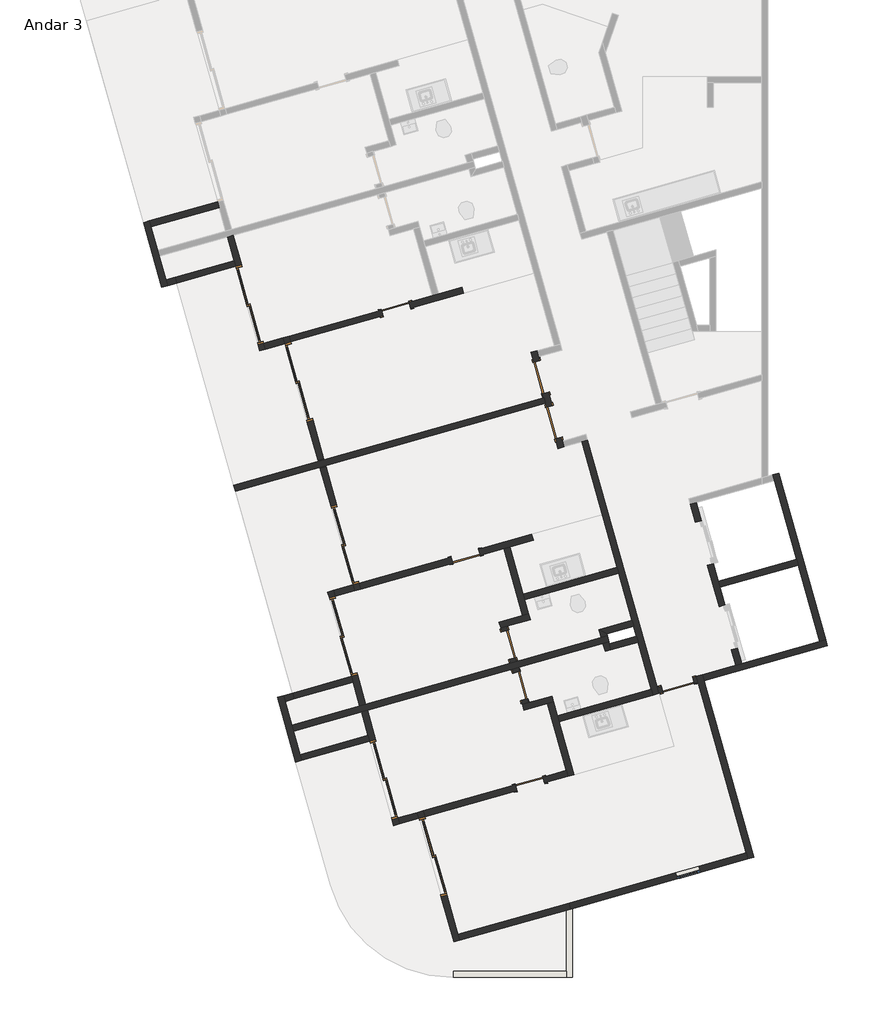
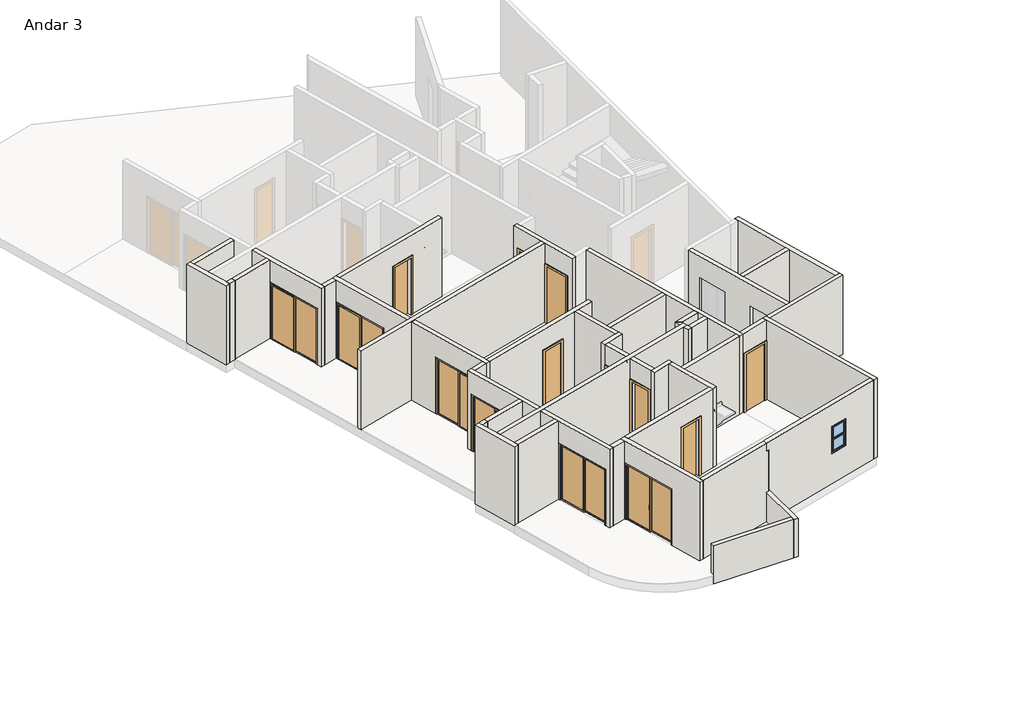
# One storey, part 1 of 3: 46 walls, 14 doors, 1 window.
"""IFC4 building model written with IfcOpenShell, lengths in millimetres."""

from ifc_helpers import new_model, si_unit, frame, origin, place, context, project, spatial, polyline, outline, extrude, faceted_brep, transform, mapped, element, save
from components import p2_80cm_9d4be4ef, p2_80cm_083652d6, p3_70cm_ef4d15e3, p3_70cm_0a698c7c, p4_correr_200cm_eaaa0877, p4_correr_200cm_830b8f20, bx_60cm_cef95a5c

model = new_model("IFC4")

# Units and contexts
model_context = context("Model", 3, world=origin())
ifc_project = project(units=[si_unit("LENGTHUNIT", "METRE", prefix="MILLI")], contexts=[model_context])

# Site, building, storey
site = spatial("IfcSite", under=ifc_project)
building = spatial("IfcBuilding", under=site)
storey = spatial("IfcBuildingStorey", under=building, Name="Andar 3", Elevation=59450.0)

# Doors
placement = place(None, origin())
p2_80cm_shape = p2_80cm_9d4be4ef(model_context)
element("IfcDoor", 1, ObjectType="M_Folha única1 : P2 - 80CM", at=placement, inside=storey, context=model_context, shape_type="MappedRepresentation", body=[
    mapped(p2_80cm_shape, transform((-80566.3456776, 19693.5423602, 59450.0), x_axis=(0.2717679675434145, -0.9623628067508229, 0.0), y_axis=(0.9623628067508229, 0.2717679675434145, 0.0), z_axis=(0.0, 0.0, 1.0))),
])
element("IfcDoor", 2, ObjectType="M_Folha única1 : P2 - 80CM", at=placement, inside=storey, context=model_context, shape_type="MappedRepresentation", body=[
    mapped(p2_80cm_shape, transform((-77213.6668366, 12144.847648, 59450.0), x_axis=(0.9623628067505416, 0.2717679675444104, 0.0), y_axis=(-0.2717679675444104, 0.9623628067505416, 0.0), z_axis=(0.0, 0.0, 1.0))),
])
p2_80cm_2_shape = p2_80cm_083652d6(model_context)
element("IfcDoor", 3, ObjectType="M_Folha única1 : P2 - 80CM", at=placement, inside=storey, context=model_context, shape_type="MappedRepresentation", body=[
    mapped(p2_80cm_2_shape, transform((-80253.8125149, 18586.8251325, 59450.0), x_axis=(-0.2717679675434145, 0.9623628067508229, 0.0), y_axis=(-0.9623628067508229, -0.2717679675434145, 0.0), z_axis=(0.0, 0.0, 1.0))),
])
p3_70cm_shape = p3_70cm_ef4d15e3(model_context)
element("IfcDoor", 4, ObjectType="M_Folha única1 : P3 - 70CM", at=placement, inside=storey, context=model_context, shape_type="MappedRepresentation", body=[
    mapped(p3_70cm_shape, transform((-84129.1775441, 21363.1168842, 59450.0), x_axis=(0.9623628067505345, 0.27176796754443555, 0.0), y_axis=(-0.27176796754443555, 0.9623628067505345, 0.0), z_axis=(0.0, 0.0, 1.0))),
])
element("IfcDoor", 5, ObjectType="M_Folha única1 : P3 - 70CM", at=placement, inside=storey, context=model_context, shape_type="MappedRepresentation", body=[
    mapped(p3_70cm_shape, transform((-80840.7851368, 9718.5269225, 59450.0), x_axis=(0.9623628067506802, 0.2717679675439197, 0.0), y_axis=(-0.2717679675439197, 0.9623628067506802, 0.0), z_axis=(0.0, 0.0, 1.0))),
])
element("IfcDoor", 6, ObjectType="M_Folha única1 : P3 - 70CM", at=placement, inside=storey, context=model_context, shape_type="MappedRepresentation", body=[
    mapped(p3_70cm_shape, transform((-81362.5862327, 13130.1209218, 59450.0), x_axis=(0.271767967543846, -0.9623628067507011, 0.0), y_axis=(0.9623628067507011, 0.271767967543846, 0.0), z_axis=(0.0, 0.0, 1.0))),
])
p3_70cm_2_shape = p3_70cm_0a698c7c(model_context)
element("IfcDoor", 7, ObjectType="M_Folha única1 : P3 - 70CM", at=placement, inside=storey, context=model_context, shape_type="MappedRepresentation", body=[
    mapped(p3_70cm_2_shape, transform((-81077.2298668, 12119.6399747, 59450.0), x_axis=(-0.27176796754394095, 0.9623628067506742, 0.0), y_axis=(-0.9623628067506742, -0.27176796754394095, 0.0), z_axis=(0.0, 0.0, 1.0))),
])
element("IfcDoor", 8, ObjectType="M_Folha única1 : P3 - 70CM", at=placement, inside=storey, context=model_context, shape_type="MappedRepresentation", body=[
    mapped(p3_70cm_2_shape, transform((-82417.0393485, 15300.2312016, 59450.0), x_axis=(0.9623628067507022, 0.27176796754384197, 0.0), y_axis=(-0.27176796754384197, 0.9623628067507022, 0.0), z_axis=(0.0, 0.0, 1.0))),
])
p4_correr_200cm_shape = p4_correr_200cm_eaaa0877(model_context)
element("IfcDoor", 9, ObjectType="Porta de correr dupla envidraçada sem revestimento : P4 - CORRER - 200CM", at=placement, inside=storey, context=model_context, shape_type="MappedRepresentation", body=[
    mapped(p4_correr_200cm_shape, transform((-86511.4049952, 19573.3416554, 59450.0), x_axis=(0.2717679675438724, -0.9623628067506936, 0.0), y_axis=(0.9623628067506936, 0.2717679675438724, 0.0), z_axis=(0.0, 0.0, 1.0))),
])
element("IfcDoor", 10, ObjectType="Porta de correr dupla envidraçada sem revestimento : P4 - CORRER - 200CM", at=placement, inside=storey, context=model_context, shape_type="MappedRepresentation", body=[
    mapped(p4_correr_200cm_shape, transform((-87717.4207223, 21466.8516126, 59450.0), x_axis=(0.2717679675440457, -0.9623628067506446, 0.0), y_axis=(0.9623628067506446, 0.2717679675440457, 0.0), z_axis=(0.0, 0.0, 1.0))),
])
element("IfcDoor", 11, ObjectType="Porta de correr dupla envidraçada sem revestimento : P4 - CORRER - 200CM", at=placement, inside=storey, context=model_context, shape_type="MappedRepresentation", body=[
    mapped(p4_correr_200cm_shape, transform((-84429.028315, 9822.2616509, 59450.0), x_axis=(-0.27176796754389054, 0.9623628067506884, 0.0), y_axis=(-0.9623628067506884, -0.27176796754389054, 0.0), z_axis=(0.0, 0.0, 1.0))),
])
element("IfcDoor", 12, ObjectType="Porta de correr dupla envidraçada sem revestimento : P4 - CORRER - 200CM", at=placement, inside=storey, context=model_context, shape_type="MappedRepresentation", body=[
    mapped(p4_correr_200cm_shape, transform((-83223.012588, 7928.7516937, 59450.0), x_axis=(-0.2717679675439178, 0.9623628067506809, 0.0), y_axis=(-0.9623628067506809, -0.2717679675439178, 0.0), z_axis=(0.0, 0.0, 1.0))),
])
p4_correr_200cm_2_shape = p4_correr_200cm_830b8f20(model_context)
element("IfcDoor", 13, ObjectType="Porta de correr dupla envidraçada sem revestimento : P4 - CORRER - 200CM", at=placement, inside=storey, context=model_context, shape_type="MappedRepresentation", body=[
    mapped(p4_correr_200cm_2_shape, transform((-85383.5679299, 15579.5360073, 59450.0), x_axis=(-0.2717679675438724, 0.9623628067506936, 0.0), y_axis=(-0.9623628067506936, -0.2717679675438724, 0.0), z_axis=(0.0, 0.0, 1.0))),
])
element("IfcDoor", 14, ObjectType="Porta de correr dupla envidraçada sem revestimento : P4 - CORRER - 200CM", at=placement, inside=storey, context=model_context, shape_type="MappedRepresentation", body=[
    mapped(p4_correr_200cm_2_shape, transform((-85420.9813965, 13334.8858955, 59450.0), x_axis=(-0.27176796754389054, 0.9623628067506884, 0.0), y_axis=(-0.9623628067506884, -0.27176796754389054, 0.0), z_axis=(0.0, 0.0, 1.0))),
])

# Walls
element("IfcWall", 15, ObjectType="Básica .15 - Externa", at=placement, inside=storey, context=model_context, shape_type="Brep", body=[
    faceted_brep([(-75344.9919691, 7919.3931149, 59450.0), (-76567.7484146, 12249.3196164, 59450.0), (-76608.5136097, 12393.6740374, 59450.0), (-76608.5136097, 12393.6740374, 62350.0), (-76567.7484146, 12249.3196164, 62350.0), (-75344.9919691, 7919.3931149, 62350.0), (-75489.3463901, 7878.6279198, 59450.0), (-75489.3463901, 7878.6279198, 62350.0), (-75530.1115852, 8022.9823408, 62350.0), (-76712.1028356, 12208.5544213, 62350.0), (-76752.8680308, 12352.9088423, 62350.0), (-76752.8680308, 12352.9088423, 59450.0), (-76712.1028356, 12208.5544213, 59450.0), (-75530.1115852, 8022.9823408, 59450.0)], [[[0, 1, 2, 3, 4, 5]], [[6, 7, 8, 9, 10, 11, 12, 13]], [[2, 1, 0, 6, 13, 12, 11]], [[5, 4, 3, 10, 9, 8, 7]], [[0, 5, 7, 6]], [[3, 2, 11, 10]]]),
])
element("IfcWall", 16, ObjectType="Básica .15 -  Interna", at=placement, inside=storey, context=model_context, shape_type="Brep", body=[
    faceted_brep([(-80529.815701, 19288.21464, 59450.0), (-80502.6389043, 19191.9783593, 59450.0), (-80461.8737092, 19047.6239383, 59450.0), (-80434.6969124, 18951.3876576, 59450.0), (-80434.6969124, 18951.3876576, 61550.0), (-80217.2825384, 18181.4974122, 61550.0), (-80217.2825384, 18181.4974122, 59450.0), (-80149.3405465, 17940.9067105, 59450.0), (-80149.3405465, 17940.9067105, 62350.0), (-80461.8737092, 19047.6239383, 62350.0), (-80502.6389043, 19191.9783593, 62350.0), (-80815.172067, 20298.695587, 62350.0), (-80815.172067, 20298.695587, 59450.0), (-80747.2300751, 20058.1048854, 59450.0), (-80747.2300751, 20058.1048854, 61550.0), (-80529.815701, 19288.21464, 61550.0), (-80290.3424914, 18992.1528527, 61550.0), (-80290.3424914, 18992.1528527, 59450.0), (-80385.46128, 19328.9798351, 59450.0), (-80385.46128, 19328.9798351, 61550.0), (-80602.8756541, 20098.8700805, 61550.0), (-80602.8756541, 20098.8700805, 59450.0), (-80630.0524508, 20195.1063612, 59450.0), (-80670.817646, 20339.4607822, 59450.0), (-80670.817646, 20339.4607822, 62350.0), (-80630.0524508, 20195.1063612, 62350.0), (-80045.7513206, 18126.0263266, 62350.0), (-80004.9861255, 17981.6719056, 62350.0), (-80004.9861255, 17981.6719056, 59450.0), (-80045.7513206, 18126.0263266, 59450.0), (-80072.9281174, 18222.2626073, 59450.0), (-80072.9281174, 18222.2626073, 61550.0)], [[[0, 1, 2, 3, 4, 5, 6, 7, 8, 9, 10, 11, 12, 13, 14, 15]], [[16, 17, 18, 19, 20, 21, 22, 23, 24, 25, 26, 27, 28, 29, 30, 31]], [[13, 12, 23, 22, 21]], [[18, 17, 3, 2, 1, 0]], [[30, 29, 28, 7, 6]], [[11, 10, 9, 8, 27, 26, 25, 24]], [[12, 11, 24, 23]], [[8, 7, 28, 27]], [[19, 18, 0, 15]], [[20, 19, 15, 14]], [[21, 20, 14, 13]], [[4, 3, 17, 16]], [[5, 4, 16, 31]], [[6, 5, 31, 30]]]),
])
element("IfcWall", 17, ObjectType="Básica .15 -  Interna", at=placement, inside=storey, context=model_context, shape_type="Brep", body=[
    faceted_brep([(-79571.9228624, 18103.967491, 59450.0), (-78702.2653663, 15024.4065094, 59450.0), (-78661.5001712, 14880.0520884, 59450.0), (-78335.3786101, 13725.2167203, 59450.0), (-78294.613415, 13580.8622993, 59450.0), (-78226.6714231, 13340.2715976, 59450.0), (-78185.906228, 13195.9171766, 59450.0), (-77818.8200634, 11896.0212586, 59450.0), (-77818.8200634, 11896.0212586, 62350.0), (-78185.906228, 13195.9171766, 62350.0), (-78226.6714231, 13340.2715976, 62350.0), (-78294.613415, 13580.8622993, 62350.0), (-78335.3786101, 13725.2167203, 62350.0), (-78661.5001712, 14880.0520884, 62350.0), (-78702.2653663, 15024.4065094, 62350.0), (-79571.9228624, 18103.967491, 62350.0), (-79427.5684414, 18144.7326862, 59450.0), (-79427.5684414, 18144.7326862, 62350.0), (-77715.2308375, 12081.1408747, 62350.0), (-77674.4656424, 11936.7864537, 62350.0), (-77674.4656424, 11936.7864537, 59450.0), (-77715.2308375, 12081.1408747, 59450.0)], [[[0, 1, 2, 3, 4, 5, 6, 7, 8, 9, 10, 11, 12, 13, 14, 15]], [[16, 17, 18, 19, 20, 21]], [[7, 6, 5, 4, 3, 2, 1, 0, 16, 21, 20]], [[15, 14, 13, 12, 11, 10, 9, 8, 19, 18, 17]], [[0, 15, 17, 16]], [[8, 7, 20, 19]]]),
])
element("IfcWall", 18, ObjectType="Básica .15 -  Interna", at=placement, inside=storey, context=model_context, shape_type="Brep", body=[
    faceted_brep([(-85017.5646639, 11630.3683862, 62350.0), (-85180.6254444, 12207.7860702, 62350.0), (-85221.3906395, 12352.1404912, 62350.0), (-85805.6917697, 14421.2205257, 62350.0), (-85805.6917697, 14421.2205257, 59450.0), (-85764.9265746, 14276.8661047, 59450.0), (-85764.9265746, 14276.8661047, 61550.0), (-85221.3906395, 12352.1404912, 61550.0), (-85221.3906395, 12352.1404912, 59450.0), (-85180.6254444, 12207.7860702, 59450.0), (-85017.5646639, 11630.3683862, 59450.0), (-85661.3373487, 14461.9857209, 62350.0), (-85620.5721536, 14317.6312998, 62350.0), (-84873.2102428, 11671.1335813, 62350.0), (-84873.2102428, 11671.1335813, 59450.0), (-85077.0362185, 12392.9056863, 59450.0), (-85077.0362185, 12392.9056863, 61550.0), (-85620.5721536, 14317.6312998, 61550.0), (-85620.5721536, 14317.6312998, 59450.0), (-85661.3373487, 14461.9857209, 59450.0)], [[[0, 1, 2, 3, 4, 5, 6, 7, 8, 9, 10]], [[11, 12, 13, 14, 15, 16, 17, 18, 19]], [[4, 19, 18, 5]], [[14, 10, 9, 8, 15]], [[3, 2, 1, 0, 13, 12, 11]], [[4, 3, 11, 19]], [[0, 10, 14, 13]], [[17, 6, 5, 18]], [[6, 17, 16, 7]], [[7, 16, 15, 8]]]),
])
element("IfcWall", 19, ObjectType="Básica .15 -  Interna", at=placement, inside=storey, context=model_context, shape_type="Brep", body=[
    faceted_brep([(-82710.8886682, 5839.2890616, 62350.0), (-83566.957766, 8870.7319029, 62350.0), (-83607.7229611, 9015.0863239, 62350.0), (-83607.7229611, 9015.0863239, 59450.0), (-83566.957766, 8870.7319029, 59450.0), (-83566.957766, 8870.7319029, 61550.0), (-83023.4218309, 6946.0062894, 61550.0), (-83023.4218309, 6946.0062894, 59450.0), (-82710.8886682, 5839.2890616, 59450.0), (-83463.3685401, 9055.851519, 62350.0), (-83422.603345, 8911.497098, 62350.0), (-82607.2994424, 6024.4086777, 62350.0), (-82566.5342472, 5880.0542567, 62350.0), (-82566.5342472, 5880.0542567, 59450.0), (-82607.2994424, 6024.4086777, 59450.0), (-82879.0674099, 6986.7714845, 59450.0), (-82879.0674099, 6986.7714845, 61550.0), (-83422.603345, 8911.497098, 61550.0), (-83422.603345, 8911.497098, 59450.0), (-83463.3685401, 9055.851519, 59450.0)], [[[0, 1, 2, 3, 4, 5, 6, 7, 8]], [[9, 10, 11, 12, 13, 14, 15, 16, 17, 18, 19]], [[3, 19, 18, 4]], [[13, 8, 7, 15, 14]], [[2, 1, 0, 12, 11, 10, 9]], [[3, 2, 9, 19]], [[0, 8, 13, 12]], [[17, 5, 4, 18]], [[5, 17, 16, 6]], [[6, 16, 15, 7]]]),
])
element("IfcWall", 20, ObjectType="Básica .15 -  Interna", at=placement, inside=storey, context=model_context, shape_type="Brep", body=[
    faceted_brep([(-86046.8404698, 17652.2925145, 59450.0), (-86046.8404698, 17652.2925145, 62350.0), (-86855.3501733, 20515.3218646, 62350.0), (-86896.1153684, 20659.6762856, 62350.0), (-86896.1153684, 20659.6762856, 59450.0), (-86855.3501733, 20515.3218646, 59450.0), (-86855.3501733, 20515.3218646, 61550.0), (-86311.8142382, 18590.596251, 61550.0), (-86311.8142382, 18590.596251, 59450.0), (-85902.4860488, 17693.0577096, 62350.0), (-85902.4860488, 17693.0577096, 59450.0), (-86167.4598172, 18631.3614462, 59450.0), (-86167.4598172, 18631.3614462, 61550.0), (-86710.9957523, 20556.0870597, 61550.0), (-86710.9957523, 20556.0870597, 59450.0), (-86751.7609474, 20700.4414807, 59450.0), (-86751.7609474, 20700.4414807, 62350.0), (-86710.9957523, 20556.0870597, 62350.0)], [[[0, 1, 2, 3, 4, 5, 6, 7, 8]], [[9, 10, 11, 12, 13, 14, 15, 16, 17]], [[10, 0, 8, 11]], [[4, 15, 14, 5]], [[1, 0, 10, 9]], [[3, 2, 1, 9, 17, 16]], [[4, 3, 16, 15]], [[7, 12, 11, 8]], [[12, 7, 6, 13]], [[13, 6, 5, 14]]]),
])
element("IfcWall", 21, ObjectType="Básica .15 - Externa", at=placement, inside=storey, context=model_context, shape_type="Brep", body=[
    faceted_brep([(-79945.4990038, 6620.2256515, 60550.0), (-79945.4990038, 6620.2256515, 59450.0), (-79945.4990038, 6620.2256515, 59150.0), (-79945.4990038, 5119.4122055, 59150.0), (-79945.4990038, 4969.4122055, 59150.0), (-79945.4990038, 4969.4122055, 60550.0), (-79945.4990038, 5119.4122055, 60550.0), (-79795.4990038, 6662.5851389, 59150.0), (-79795.4990038, 6662.5851389, 60550.0), (-79795.4990038, 4969.4122055, 60550.0), (-79795.4990038, 4969.4122055, 59150.0), (-79850.1164062, 6647.1613711, 59150.0)], [[[0, 1, 2, 3, 4, 5, 6]], [[7, 8, 9, 10]], [[4, 3, 2, 11, 7, 10]], [[0, 6, 5, 9, 8]], [[5, 4, 10, 9]], [[0, 8, 7, 11, 2, 1]]]),
])
element("IfcWall", 22, ObjectType="Básica .15 - Externa", at=placement, inside=storey, context=model_context, shape_type="SweptSolid", body=[
    extrude(outline(polyline([(-82713.5540687, 5119.4122055), (-79945.4990038, 5119.4122055), (-79945.4990038, 4969.4122055), (-82713.5540687, 4969.4122055), (-82713.5540687, 5119.4122055)])), frame((0.0, 0.0, 59150.0), z_axis=(0.0, 0.0, 1.0), x_axis=(1.0, 0.0, 0.0)), (0.0, 0.0, 1.0), 1400.0),
])
element("IfcWall", 23, ObjectType="Básica .15 - Externa", at=placement, inside=storey, context=model_context, shape_type="Brep", body=[
    faceted_brep([(-73581.8825825, 13248.3842954, 59450.0), (-73726.2370035, 13207.6191002, 59450.0), (-75646.150803, 12665.442005, 59450.0), (-75790.505224, 12624.6768098, 59450.0), (-76608.5136097, 12393.6740374, 59450.0), (-76608.5136097, 12393.6740374, 62350.0), (-75790.505224, 12624.6768098, 62350.0), (-75646.150803, 12665.442005, 62350.0), (-73726.2370035, 13207.6191002, 62350.0), (-73581.8825825, 13248.3842954, 62350.0), (-73541.1173874, 13104.0298743, 59450.0), (-73541.1173874, 13104.0298743, 62350.0), (-76567.7484146, 12249.3196164, 62350.0), (-76567.7484146, 12249.3196164, 59450.0)], [[[0, 1, 2, 3, 4, 5, 6, 7, 8, 9]], [[10, 11, 12, 13]], [[4, 3, 2, 1, 0, 10, 13]], [[9, 8, 7, 6, 5, 12, 11]], [[0, 9, 11, 10]], [[5, 4, 13, 12]]]),
])
element("IfcWall", 24, ObjectType="Básica .15 - Externa", at=placement, inside=storey, context=model_context, shape_type="Brep", body=[
    faceted_brep([(-74881.2508656, 17297.6610289, 59450.0), (-74840.4856705, 17153.3066079, 59450.0), (-74296.9497354, 15228.5809944, 59450.0), (-74256.1845402, 15084.2265734, 59450.0), (-73726.2370035, 13207.6191002, 59450.0), (-73726.2370035, 13207.6191002, 62350.0), (-74256.1845402, 15084.2265734, 62350.0), (-74296.9497354, 15228.5809944, 62350.0), (-74840.4856705, 17153.3066079, 62350.0), (-74881.2508656, 17297.6610289, 62350.0), (-74736.8964446, 17338.426224, 59450.0), (-74736.8964446, 17338.426224, 62350.0), (-73581.8825825, 13248.3842954, 62350.0), (-73581.8825825, 13248.3842954, 59450.0)], [[[0, 1, 2, 3, 4, 5, 6, 7, 8, 9]], [[10, 11, 12, 13]], [[4, 3, 2, 1, 0, 10, 13]], [[9, 8, 7, 6, 5, 12, 11]], [[0, 9, 11, 10]], [[5, 4, 13, 12]]]),
])
element("IfcWall", 25, ObjectType="Básica .15 -  Interna", at=placement, inside=storey, context=model_context, shape_type="Brep", body=[
    faceted_brep([(-76483.167581, 15077.4768805, 59450.0), (-76197.8112151, 14066.9959334, 59450.0), (-76197.8112151, 14066.9959334, 61575.0), (-75898.8664508, 13008.396846, 61575.0), (-75898.8664508, 13008.396846, 59450.0), (-75790.505224, 12624.6768098, 59450.0), (-75790.505224, 12624.6768098, 62350.0), (-76904.7538909, 16570.3643175, 62350.0), (-76904.7538909, 16570.3643175, 59450.0), (-76782.1123453, 16136.075968, 59450.0), (-76782.1123453, 16136.075968, 61575.0), (-76483.167581, 15077.4768805, 61575.0), (-76053.4567941, 14107.7611286, 61575.0), (-76053.4567941, 14107.7611286, 59450.0), (-76176.0983397, 14542.0494781, 59450.0), (-76216.8635348, 14686.4038991, 59450.0), (-76338.81316, 15118.2420757, 59450.0), (-76338.81316, 15118.2420757, 61575.0), (-76637.7579243, 16176.8411631, 61575.0), (-76637.7579243, 16176.8411631, 59450.0), (-76760.3994699, 16611.1295126, 59450.0), (-76760.3994699, 16611.1295126, 62350.0), (-76216.8635348, 14686.4038991, 62350.0), (-76176.0983397, 14542.0494781, 62350.0), (-75646.150803, 12665.442005, 62350.0), (-75646.150803, 12665.442005, 59450.0), (-75754.5120298, 13049.1620412, 59450.0), (-75754.5120298, 13049.1620412, 61575.0)], [[[0, 1, 2, 3, 4, 5, 6, 7, 8, 9, 10, 11]], [[12, 13, 14, 15, 16, 17, 18, 19, 20, 21, 22, 23, 24, 25, 26, 27]], [[9, 8, 20, 19]], [[26, 25, 5, 4]], [[16, 15, 14, 13, 1, 0]], [[7, 6, 24, 23, 22, 21]], [[8, 7, 21, 20]], [[6, 5, 25, 24]], [[4, 3, 27, 26]], [[2, 1, 13, 12]], [[3, 2, 12, 27]], [[19, 18, 10, 9]], [[17, 16, 0, 11]], [[18, 17, 11, 10]]]),
])
element("IfcWall", 26, ObjectType="Básica .15 -  Interna", at=placement, inside=storey, context=model_context, shape_type="SweptSolid", body=[
    extrude(outline(polyline([(-74256.1845402, 15084.2265734), (-76176.0983397, 14542.0494781), (-76216.8635348, 14686.4038991), (-74296.9497354, 15228.5809944), (-74256.1845402, 15084.2265734)])), frame((0.0, 0.0, 59450.0), z_axis=(0.0, 0.0, 1.0), x_axis=(1.0, 0.0, 0.0)), (0.0, 0.0, 1.0), 2900.0),
])
element("IfcWall", 27, ObjectType="Básica .15 -  Interna", at=placement, inside=storey, context=model_context, shape_type="Brep", body=[
    faceted_brep([(-82566.5342472, 5880.0542567, 59450.0), (-79945.4990038, 6620.2256515, 59450.0), (-79850.1164062, 6647.1613711, 59450.0), (-79850.1164062, 6647.1613711, 62050.0), (-79945.4990038, 6620.2256515, 62050.0), (-79945.4990038, 6620.2256515, 62350.0), (-82566.5342472, 5880.0542567, 62350.0), (-82607.2994424, 6024.4086777, 59450.0), (-82607.2994424, 6024.4086777, 62350.0), (-79945.4990038, 6776.0920243, 62350.0), (-79945.4990038, 6776.0920243, 62050.0), (-79890.8816014, 6791.5157921, 62050.0), (-79890.8816014, 6791.5157921, 59450.0), (-79945.4990038, 6776.0920243, 59450.0)], [[[0, 1, 2, 3, 4, 5, 6]], [[7, 8, 9, 10, 11, 12, 13]], [[2, 1, 0, 7, 13, 12]], [[6, 5, 9, 8]], [[0, 6, 8, 7]], [[2, 12, 11, 3]], [[10, 4, 3, 11]], [[5, 4, 10, 9]]]),
])
element("IfcWall", 28, ObjectType="Básica .15 -  Interna", at=placement, inside=storey, context=model_context, shape_type="Brep", body=[
    faceted_brep([(-85221.3906395, 12352.1404912, 59450.0), (-86668.7560772, 11943.4094383, 59450.0), (-86668.7560772, 11943.4094383, 62350.0), (-85221.3906395, 12352.1404912, 62350.0), (-85221.3906395, 12352.1404912, 61550.0), (-85180.6254444, 12207.7860702, 59450.0), (-85180.6254444, 12207.7860702, 62350.0), (-86627.9908821, 11799.0550173, 62350.0), (-86627.9908821, 11799.0550173, 59450.0)], [[[0, 1, 2, 3, 4]], [[5, 6, 7, 8]], [[1, 0, 5, 8]], [[2, 1, 8, 7]], [[3, 2, 7, 6]], [[0, 4, 3, 6, 5]]]),
])
element("IfcWall", 29, ObjectType="Básica .15 - Externa", at=placement, inside=storey, context=model_context, shape_type="Brep", body=[
    faceted_brep([(-86444.4738537, 10292.215871, 59450.0), (-86485.2390488, 10436.570292, 59450.0), (-86648.2998293, 11013.987976, 59450.0), (-86689.0650245, 11158.342397, 59450.0), (-86852.125805, 11735.7600811, 59450.0), (-86892.8910001, 11880.1145021, 59450.0), (-86892.8910001, 11880.1145021, 62350.0), (-86852.125805, 11735.7600811, 62350.0), (-86689.0650245, 11158.342397, 62350.0), (-86648.2998293, 11013.987976, 62350.0), (-86485.2390488, 10436.570292, 62350.0), (-86444.4738537, 10292.215871, 62350.0), (-86588.8282747, 10251.4506758, 59450.0), (-86588.8282747, 10251.4506758, 62350.0), (-87037.2454211, 11839.349307, 62350.0), (-87037.2454211, 11839.349307, 59450.0)], [[[0, 1, 2, 3, 4, 5, 6, 7, 8, 9, 10, 11]], [[12, 13, 14, 15]], [[5, 4, 3, 2, 1, 0, 12, 15]], [[11, 10, 9, 8, 7, 6, 14, 13]], [[6, 5, 15, 14]], [[0, 11, 13, 12]]]),
])
element("IfcWall", 30, ObjectType="Básica .15 -  Interna", at=placement, inside=storey, context=model_context, shape_type="Brep", body=[
    faceted_brep([(-86444.4738537, 10292.215871, 59450.0), (-84772.9734931, 10764.2418601, 59450.0), (-84772.9734931, 10764.2418601, 61550.0), (-84772.9734931, 10764.2418601, 62350.0), (-86444.4738537, 10292.215871, 62350.0), (-86485.2390488, 10436.570292, 59450.0), (-86485.2390488, 10436.570292, 62350.0), (-84813.7386882, 10908.5962811, 62350.0), (-84813.7386882, 10908.5962811, 59450.0)], [[[0, 1, 2, 3, 4]], [[5, 6, 7, 8]], [[1, 0, 5, 8]], [[4, 3, 7, 6]], [[0, 4, 6, 5]], [[3, 2, 1, 8, 7]]]),
])
element("IfcWall", 31, ObjectType="Básica .15 - Externa", at=placement, inside=storey, context=model_context, shape_type="Brep", body=[
    faceted_brep([(-89732.866261, 21936.8058326, 59450.0), (-89773.6314561, 22081.1602536, 59450.0), (-89936.6922366, 22658.5779377, 59450.0), (-89977.4574318, 22802.9323587, 59450.0), (-90140.5182123, 23380.3500428, 59450.0), (-90181.2834074, 23524.7044638, 59450.0), (-90181.2834074, 23524.7044638, 62350.0), (-90140.5182123, 23380.3500428, 62350.0), (-89977.4574318, 22802.9323587, 62350.0), (-89936.6922366, 22658.5779377, 62350.0), (-89773.6314561, 22081.1602536, 62350.0), (-89732.866261, 21936.8058326, 62350.0), (-89877.220682, 21896.0406375, 59450.0), (-89877.220682, 21896.0406375, 62350.0), (-90325.6378284, 23483.9392686, 62350.0), (-90325.6378284, 23483.9392686, 59450.0)], [[[0, 1, 2, 3, 4, 5, 6, 7, 8, 9, 10, 11]], [[12, 13, 14, 15]], [[5, 4, 3, 2, 1, 0, 12, 15]], [[11, 10, 9, 8, 7, 6, 14, 13]], [[0, 11, 13, 12]], [[6, 5, 15, 14]]]),
])
element("IfcWall", 32, ObjectType="Básica .15 -  Interna", at=placement, inside=storey, context=model_context, shape_type="Brep", body=[
    faceted_brep([(-88102.1310955, 22553.1862428, 59450.0), (-89549.4965332, 22144.4551899, 59450.0), (-89549.4965332, 22144.4551899, 62350.0), (-88102.1310955, 22553.1862428, 62350.0), (-88061.3659003, 22408.8318218, 59450.0), (-88061.3659003, 22408.8318218, 61550.0), (-88061.3659003, 22408.8318218, 62350.0), (-89508.731338, 22000.1007688, 62350.0), (-89508.731338, 22000.1007688, 59450.0)], [[[0, 1, 2, 3]], [[4, 5, 6, 7, 8]], [[1, 0, 4, 8]], [[2, 1, 8, 7]], [[3, 2, 7, 6]], [[0, 3, 6, 5, 4]]]),
])
element("IfcWall", 33, ObjectType="Básica .15 -  Interna", at=placement, inside=storey, context=model_context, shape_type="Brep", body=[
    faceted_brep([(-90140.5182123, 23380.3500428, 59450.0), (-88469.0178517, 23852.3760319, 59450.0), (-88469.0178517, 23852.3760319, 62350.0), (-90140.5182123, 23380.3500428, 62350.0), (-90181.2834074, 23524.7044638, 59450.0), (-90181.2834074, 23524.7044638, 62350.0), (-88509.7830468, 23996.7304529, 62350.0), (-88509.7830468, 23996.7304529, 61550.0), (-88509.7830468, 23996.7304529, 59450.0)], [[[0, 1, 2, 3]], [[4, 5, 6, 7, 8]], [[1, 0, 4, 8]], [[3, 2, 6, 5]], [[0, 3, 5, 4]], [[2, 1, 8, 7, 6]]]),
])
element("IfcWall", 34, ObjectType="Básica .15 -  Interna", at=placement, inside=storey, context=model_context, shape_type="Brep", body=[
    faceted_brep([(-86896.1153684, 20659.6762856, 59450.0), (-87373.4755442, 20524.8714034, 59450.0), (-87373.4755442, 20524.8714034, 61550.0), (-87373.4755442, 20524.8714034, 62350.0), (-86896.1153684, 20659.6762856, 62350.0), (-86855.3501733, 20515.3218646, 59450.0), (-86855.3501733, 20515.3218646, 61550.0), (-86855.3501733, 20515.3218646, 62350.0), (-87332.7103491, 20380.5169824, 62350.0), (-87332.7103491, 20380.5169824, 59450.0)], [[[0, 1, 2, 3, 4]], [[5, 6, 7, 8, 9]], [[1, 0, 5, 9]], [[4, 3, 8, 7]], [[0, 4, 7, 6, 5]], [[3, 2, 1, 9, 8]]]),
])
element("IfcWall", 35, ObjectType="Básica .15 -  Interna", at=placement, inside=storey, context=model_context, shape_type="Brep", body=[
    faceted_brep([(-83607.7229611, 9015.0863239, 59450.0), (-84085.083137, 8880.2814417, 59450.0), (-84085.083137, 8880.2814417, 61550.0), (-84085.083137, 8880.2814417, 62350.0), (-83607.7229611, 9015.0863239, 62350.0), (-83566.957766, 8870.7319029, 59450.0), (-83566.957766, 8870.7319029, 61550.0), (-83566.957766, 8870.7319029, 62350.0), (-84044.3179418, 8735.9270207, 62350.0), (-84044.3179418, 8735.9270207, 59450.0)], [[[0, 1, 2, 3, 4]], [[5, 6, 7, 8, 9]], [[1, 0, 5, 9]], [[4, 3, 8, 7]], [[3, 2, 1, 9, 8]], [[0, 4, 7, 6, 5]]]),
])
element("IfcWall", 36, ObjectType="Básica .15 -  Interna", at=placement, inside=storey, context=model_context, shape_type="Brep", body=[
    faceted_brep([(-85183.9771729, 14596.790603, 59450.0), (-85661.3373487, 14461.9857209, 59450.0), (-85661.3373487, 14461.9857209, 62350.0), (-85183.9771729, 14596.790603, 62350.0), (-85183.9771729, 14596.790603, 61550.0), (-85143.2119778, 14452.436182, 59450.0), (-85143.2119778, 14452.436182, 62350.0), (-85620.5721536, 14317.6312998, 62350.0), (-85620.5721536, 14317.6312998, 61550.0), (-85620.5721536, 14317.6312998, 59450.0)], [[[0, 1, 2, 3, 4]], [[5, 6, 7, 8, 9]], [[1, 0, 5, 9]], [[3, 2, 7, 6]], [[2, 1, 9, 8, 7]], [[0, 4, 3, 6, 5]]]),
])
element("IfcWall", 37, ObjectType="Básica .15 -  Interna", at=placement, inside=storey, context=model_context, shape_type="Brep", body=[
    faceted_brep([(-87477.0647701, 20339.7517872, 62350.0), (-88061.3659003, 22408.8318218, 62350.0), (-88102.1310955, 22553.1862428, 62350.0), (-88265.191876, 23130.6039268, 62350.0), (-88265.191876, 23130.6039268, 59450.0), (-88102.1310955, 22553.1862428, 59450.0), (-88061.3659003, 22408.8318218, 59450.0), (-88061.3659003, 22408.8318218, 61550.0), (-87517.8299653, 20484.1062083, 61550.0), (-87517.8299653, 20484.1062083, 59450.0), (-87477.0647701, 20339.7517872, 59450.0), (-88120.837455, 23171.369122, 62350.0), (-87373.4755442, 20524.8714034, 62350.0), (-87332.7103491, 20380.5169824, 62350.0), (-87332.7103491, 20380.5169824, 59450.0), (-87373.4755442, 20524.8714034, 59450.0), (-87373.4755442, 20524.8714034, 61550.0), (-87917.0114793, 22449.5970169, 61550.0), (-87917.0114793, 22449.5970169, 59450.0), (-88120.837455, 23171.369122, 59450.0)], [[[0, 1, 2, 3, 4, 5, 6, 7, 8, 9, 10]], [[11, 12, 13, 14, 15, 16, 17, 18, 19]], [[14, 10, 9, 15]], [[4, 19, 18, 6, 5]], [[3, 2, 1, 0, 13, 12, 11]], [[0, 10, 14, 13]], [[4, 3, 11, 19]], [[8, 16, 15, 9]], [[16, 8, 7, 17]], [[17, 7, 6, 18]]]),
])
element("IfcWall", 38, ObjectType="Básica .15 -  Interna", at=placement, inside=storey, context=model_context, shape_type="Brep", body=[
    faceted_brep([(-85143.2119778, 14452.436182, 62350.0), (-85183.9771729, 14596.790603, 62350.0), (-85992.4868763, 17459.8199531, 62350.0), (-85992.4868763, 17459.8199531, 59450.0), (-85727.513108, 16521.5162165, 59450.0), (-85727.513108, 16521.5162165, 61550.0), (-85183.9771729, 14596.790603, 61550.0), (-85183.9771729, 14596.790603, 59450.0), (-85143.2119778, 14452.436182, 59450.0), (-85848.1324553, 17500.5851482, 62350.0), (-85039.6227519, 14637.5557982, 62350.0), (-84998.8575568, 14493.2013772, 62350.0), (-84998.8575568, 14493.2013772, 59450.0), (-85039.6227519, 14637.5557982, 59450.0), (-85039.6227519, 14637.5557982, 61550.0), (-85583.158687, 16562.2814117, 61550.0), (-85583.158687, 16562.2814117, 59450.0), (-85848.1324553, 17500.5851482, 59450.0)], [[[0, 1, 2, 3, 4, 5, 6, 7, 8]], [[9, 10, 11, 12, 13, 14, 15, 16, 17]], [[3, 17, 16, 4]], [[12, 8, 7, 13]], [[2, 1, 0, 11, 10, 9]], [[3, 2, 9, 17]], [[0, 8, 12, 11]], [[15, 5, 4, 16]], [[5, 15, 14, 6]], [[6, 14, 13, 7]]]),
])
element("IfcWall", 39, ObjectType="Básica .15 -  Interna", at=placement, inside=storey, context=model_context, shape_type="SweptSolid", body=[
    extrude(outline(polyline([(-80461.8737092, 19047.6239383), (-88068.36111, 16899.5778931), (-88109.1263052, 17043.9323141), (-80502.6389043, 19191.9783593), (-80461.8737092, 19047.6239383)])), frame((0.0, 0.0, 59450.0), z_axis=(0.0, 0.0, 1.0), x_axis=(1.0, 0.0, 0.0)), (0.0, 0.0, 1.0), 2900.0),
])
element("IfcWall", 40, ObjectType="Básica .15 -  Interna", at=placement, inside=storey, context=model_context, shape_type="Brep", body=[
    faceted_brep([(-78945.0553533, 13345.2242614, 59450.0), (-81168.1134369, 12717.4402563, 59450.0), (-81312.4678579, 12676.6750612, 59450.0), (-84873.2102428, 11671.1335813, 59450.0), (-85017.5646639, 11630.3683862, 59450.0), (-86689.0650245, 11158.342397, 59450.0), (-86689.0650245, 11158.342397, 62350.0), (-85017.5646639, 11630.3683862, 62350.0), (-84873.2102428, 11671.1335813, 62350.0), (-81312.4678579, 12676.6750612, 62350.0), (-81168.1134369, 12717.4402563, 62350.0), (-78945.0553533, 13345.2242614, 62350.0), (-78904.2901581, 13200.8698403, 59450.0), (-78904.2901581, 13200.8698403, 62350.0), (-81127.3482417, 12573.0858353, 62350.0), (-81271.7026627, 12532.3206402, 62350.0), (-84832.4450477, 11526.7791603, 62350.0), (-84976.7994687, 11486.0139651, 62350.0), (-86648.2998293, 11013.987976, 62350.0), (-86648.2998293, 11013.987976, 59450.0), (-84976.7994687, 11486.0139651, 59450.0), (-84832.4450477, 11526.7791603, 59450.0), (-81271.7026627, 12532.3206402, 59450.0), (-81127.3482417, 12573.0858353, 59450.0)], [[[0, 1, 2, 3, 4, 5, 6, 7, 8, 9, 10, 11]], [[12, 13, 14, 15, 16, 17, 18, 19, 20, 21, 22, 23]], [[5, 4, 3, 2, 1, 0, 12, 23, 22, 21, 20, 19]], [[11, 10, 9, 8, 7, 6, 18, 17, 16, 15, 14, 13]], [[0, 11, 13, 12]], [[6, 5, 19, 18]]]),
])
element("IfcWall", 41, ObjectType="Básica .15 -  Interna", at=placement, inside=storey, context=model_context, shape_type="Brep", body=[
    faceted_brep([(-84188.6723628, 8695.1618256, 62350.0), (-84772.9734931, 10764.2418601, 62350.0), (-84813.7386882, 10908.5962811, 62350.0), (-84976.7994687, 11486.0139651, 62350.0), (-84976.7994687, 11486.0139651, 59450.0), (-84813.7386882, 10908.5962811, 59450.0), (-84772.9734931, 10764.2418601, 59450.0), (-84772.9734931, 10764.2418601, 61550.0), (-84229.437558, 8839.5162466, 61550.0), (-84229.437558, 8839.5162466, 59450.0), (-84188.6723628, 8695.1618256, 59450.0), (-84832.4450477, 11526.7791603, 62350.0), (-84085.083137, 8880.2814417, 62350.0), (-84044.3179418, 8735.9270207, 62350.0), (-84044.3179418, 8735.9270207, 59450.0), (-84085.083137, 8880.2814417, 59450.0), (-84085.083137, 8880.2814417, 61550.0), (-84628.6190721, 10805.0070552, 61550.0), (-84628.6190721, 10805.0070552, 59450.0), (-84832.4450477, 11526.7791603, 59450.0)], [[[0, 1, 2, 3, 4, 5, 6, 7, 8, 9, 10]], [[11, 12, 13, 14, 15, 16, 17, 18, 19]], [[14, 10, 9, 15]], [[4, 19, 18, 6, 5]], [[3, 2, 1, 0, 13, 12, 11]], [[0, 10, 14, 13]], [[4, 3, 11, 19]], [[17, 7, 6, 18]], [[7, 17, 16, 8]], [[8, 16, 15, 9]]]),
])
element("IfcWall", 42, ObjectType="Básica .15 - Externa", at=placement, inside=storey, context=model_context, shape_type="Brep", body=[
    faceted_brep([(-79850.1164062, 6647.1613711, 62050.0), (-79850.1164062, 6647.1613711, 59450.0), (-75489.3463901, 7878.6279198, 59450.0), (-75489.3463901, 7878.6279198, 62350.0), (-79850.1164062, 6647.1613711, 62350.0), (-79945.4990038, 6620.2256515, 62350.0), (-79945.4990038, 6620.2256515, 62050.0), (-76649.6431667, 7550.9640756, 60550.0), (-77227.0608508, 7387.9032951, 60550.0), (-77227.0608508, 7387.9032951, 61550.0), (-76649.6431667, 7550.9640756, 61550.0), (-79890.8816014, 6791.5157921, 59450.0), (-79890.8816014, 6791.5157921, 62050.0), (-79945.4990038, 6776.0920243, 62050.0), (-79945.4990038, 6776.0920243, 62350.0), (-79890.8816014, 6791.5157921, 62350.0), (-75530.1115852, 8022.9823408, 62350.0), (-75530.1115852, 8022.9823408, 59450.0), (-76690.4083619, 7695.3184966, 60550.0), (-76690.4083619, 7695.3184966, 61550.0), (-77267.8260459, 7532.2577161, 61550.0), (-77267.8260459, 7532.2577161, 60550.0)], [[[0, 1, 2, 3, 4, 5, 6], [7, 8, 9, 10]], [[11, 12, 13, 14, 15, 16, 17], [18, 19, 20, 21]], [[2, 1, 11, 17]], [[5, 4, 3, 16, 15, 14]], [[18, 21, 8, 7]], [[21, 20, 9, 8]], [[20, 19, 10, 9]], [[19, 18, 7, 10]], [[3, 2, 17, 16]], [[0, 12, 11, 1]], [[6, 13, 12, 0]], [[6, 5, 14, 13]]]),
])
element("IfcWall", 43, ObjectType="Básica .15 - Externa", at=placement, inside=storey, context=model_context, shape_type="SweptSolid", body=[
    extrude(outline(polyline([(-89773.6314561, 22081.1602536), (-89549.4965332, 22144.4551899), (-89508.731338, 22000.1007688), (-89732.866261, 21936.8058326), (-89773.6314561, 22081.1602536)])), frame((0.0, 0.0, 59450.0), z_axis=(0.0, 0.0, 1.0), x_axis=(1.0, 0.0, 0.0)), (0.0, 0.0, 1.0), 2900.0),
])
element("IfcWall", 44, ObjectType="Básica .15 - Externa", at=placement, inside=storey, context=model_context, shape_type="SweptSolid", body=[
    extrude(outline(polyline([(-86892.8910001, 11880.1145021), (-86668.7560772, 11943.4094383), (-86627.9908821, 11799.0550173), (-86852.125805, 11735.7600811), (-86892.8910001, 11880.1145021)])), frame((0.0, 0.0, 59450.0), z_axis=(0.0, 0.0, 1.0), x_axis=(1.0, 0.0, 0.0)), (0.0, 0.0, 1.0), 2900.0),
])
element("IfcWall", 45, ObjectType="Básica .15 -  Interna", at=placement, inside=storey, context=model_context, shape_type="Brep", body=[
    faceted_brep([(-82513.5433702, 21897.2996395, 59450.0), (-83090.9610542, 21734.238859, 59450.0), (-83235.3154752, 21693.4736638, 59450.0), (-83812.7331593, 21530.4128833, 59450.0), (-83812.7331593, 21530.4128833, 61550.0), (-84486.387124, 21340.175306, 61550.0), (-84486.387124, 21340.175306, 59450.0), (-86751.7609474, 20700.4414807, 59450.0), (-86751.7609474, 20700.4414807, 62350.0), (-83235.3154752, 21693.4736638, 62350.0), (-83090.9610542, 21734.238859, 62350.0), (-82513.5433702, 21897.2996395, 62350.0), (-83771.9679641, 21386.0584623, 61550.0), (-83771.9679641, 21386.0584623, 59450.0), (-82472.778175, 21752.9452185, 59450.0), (-82472.778175, 21752.9452185, 62350.0), (-86710.9957523, 20556.0870597, 62350.0), (-86710.9957523, 20556.0870597, 61550.0), (-86710.9957523, 20556.0870597, 59450.0), (-84445.6219289, 21195.820885, 59450.0), (-84445.6219289, 21195.820885, 61550.0)], [[[0, 1, 2, 3, 4, 5, 6, 7, 8, 9, 10, 11]], [[12, 13, 14, 15, 16, 17, 18, 19, 20]], [[19, 18, 7, 6]], [[14, 13, 3, 2, 1, 0]], [[11, 10, 9, 8, 16, 15]], [[0, 11, 15, 14]], [[4, 3, 13, 12]], [[5, 4, 12, 20]], [[6, 5, 20, 19]], [[8, 7, 18, 17, 16]]]),
])
element("IfcWall", 46, ObjectType="Básica .15 -  Interna", at=placement, inside=storey, context=model_context, shape_type="SweptSolid", body=[
    extrude(outline(polyline([(-80169.4554031, 11388.8386864), (-77859.7846669, 12041.0818085), (-77819.0194718, 11896.7273875), (-80128.690208, 11244.4842654), (-80169.4554031, 11388.8386864)])), frame((0.0, 0.0, 59450.0), z_axis=(0.0, 0.0, 1.0), x_axis=(1.0, 0.0, 0.0)), (0.0, 0.0, 1.0), 2900.0),
])
element("IfcWall", 47, ObjectType="Básica .15 -  Interna", at=placement, inside=storey, context=model_context, shape_type="SweptSolid", body=[
    extrude(outline(polyline([(-78185.906228, 13195.9171766), (-78849.9365646, 13008.397279), (-78890.7017597, 13152.7517), (-78226.6714231, 13340.2715976), (-78185.906228, 13195.9171766)])), frame((0.0, 0.0, 59450.0), z_axis=(0.0, 0.0, 1.0), x_axis=(1.0, 0.0, 0.0)), (0.0, 0.0, 1.0), 2900.0),
])
element("IfcWall", 48, ObjectType="Básica .15 -  Interna", at=placement, inside=storey, context=model_context, shape_type="Brep", body=[
    faceted_brep([(-80986.3462968, 11521.8396931, 59450.0), (-80408.9286128, 11684.9004736, 59450.0), (-80264.5741917, 11725.6656688, 59450.0), (-80264.5741917, 11725.6656688, 62350.0), (-80408.9286128, 11684.9004736, 62350.0), (-80986.3462968, 11521.8396931, 62350.0), (-81027.1114919, 11666.1941141, 59450.0), (-81027.1114919, 11666.1941141, 62350.0), (-80882.7570709, 11706.9593092, 62350.0), (-80305.3393869, 11870.0200898, 62350.0), (-80305.3393869, 11870.0200898, 59450.0), (-80882.7570709, 11706.9593092, 59450.0)], [[[0, 1, 2, 3, 4, 5]], [[6, 7, 8, 9, 10, 11]], [[2, 1, 0, 6, 11, 10]], [[5, 4, 3, 9, 8, 7]], [[0, 5, 7, 6]], [[3, 2, 10, 9]]]),
])
element("IfcWall", 49, ObjectType="Básica .15 -  Interna", at=placement, inside=storey, context=model_context, shape_type="SweptSolid", body=[
    extrude(outline(polyline([(900.0, -2900.0), (0.0, -2900.0), (0.0, 0.0), (100.0, 0.0), (100.0, -2100.0), (800.0, -2100.0), (800.0, 0.0), (900.0, 0.0), (900.0, -2900.0)])), frame((-81271.7026627, 12532.3206402, 59450.0), z_axis=(0.9623628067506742, 0.271767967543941, 0.0), x_axis=(0.271767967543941, -0.9623628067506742, 0.0)), (0.0, 0.0, 1.0), 150.0),
])
element("IfcWall", 50, ObjectType="Básica .15 -  Interna", at=placement, inside=storey, context=model_context, shape_type="Brep", body=[
    faceted_brep([(-80408.9286128, 11684.9004736, 59450.0), (-79946.9230679, 10048.8837021, 59450.0), (-79906.1578728, 9904.5292811, 59450.0), (-79906.1578728, 9904.5292811, 62350.0), (-79946.9230679, 10048.8837021, 62350.0), (-80408.9286128, 11684.9004736, 62350.0), (-80264.5741917, 11725.6656688, 59450.0), (-80264.5741917, 11725.6656688, 62350.0), (-80169.4554031, 11388.8386864, 62350.0), (-80128.690208, 11244.4842654, 62350.0), (-79761.8034518, 9945.2944763, 62350.0), (-79761.8034518, 9945.2944763, 59450.0), (-80128.690208, 11244.4842654, 59450.0), (-80169.4554031, 11388.8386864, 59450.0)], [[[0, 1, 2, 3, 4, 5]], [[6, 7, 8, 9, 10, 11, 12, 13]], [[2, 1, 0, 6, 13, 12, 11]], [[5, 4, 3, 10, 9, 8, 7]], [[3, 2, 11, 10]], [[0, 5, 7, 6]]]),
])
element("IfcWall", 51, ObjectType="Básica .15 -  Interna", at=placement, inside=storey, context=model_context, shape_type="Brep", body=[
    faceted_brep([(-79946.9230679, 10048.8837021, 59450.0), (-80524.340752, 9885.8229216, 59450.0), (-80524.340752, 9885.8229216, 61550.0), (-81197.9947167, 9695.5853443, 61550.0), (-81197.9947167, 9695.5853443, 59450.0), (-83463.3685401, 9055.851519, 59450.0), (-83463.3685401, 9055.851519, 62350.0), (-79946.9230679, 10048.8837021, 62350.0), (-80483.5755569, 9741.4685006, 61550.0), (-80483.5755569, 9741.4685006, 59450.0), (-79906.1578728, 9904.5292811, 59450.0), (-79906.1578728, 9904.5292811, 62350.0), (-83422.603345, 8911.497098, 62350.0), (-83422.603345, 8911.497098, 61550.0), (-83422.603345, 8911.497098, 59450.0), (-81157.2295216, 9551.2309233, 59450.0), (-81157.2295216, 9551.2309233, 61550.0)], [[[0, 1, 2, 3, 4, 5, 6, 7]], [[8, 9, 10, 11, 12, 13, 14, 15, 16]], [[15, 14, 5, 4]], [[10, 9, 1, 0]], [[7, 6, 12, 11]], [[2, 1, 9, 8]], [[3, 2, 8, 16]], [[4, 3, 16, 15]], [[0, 7, 11, 10]], [[6, 5, 14, 13, 12]]]),
])
element("IfcWall", 52, ObjectType="Básica .15 -  Interna", at=placement, inside=storey, context=model_context, shape_type="Brep", body=[
    faceted_brep([(-79048.6445791, 13160.1046452, 59450.0), (-78994.2909856, 12967.6320839, 59450.0), (-78994.2909856, 12967.6320839, 62350.0), (-79048.6445791, 13160.1046452, 62350.0), (-78904.2901581, 13200.8698403, 59450.0), (-78904.2901581, 13200.8698403, 62350.0), (-78890.7017597, 13152.7517, 62350.0), (-78849.9365646, 13008.397279, 62350.0), (-78849.9365646, 13008.397279, 59450.0), (-78890.7017597, 13152.7517, 59450.0)], [[[0, 1, 2, 3]], [[4, 5, 6, 7, 8, 9]], [[1, 0, 4, 9, 8]], [[3, 2, 7, 6, 5]], [[0, 3, 5, 4]], [[2, 1, 8, 7]]]),
])
element("IfcWall", 53, ObjectType="Básica .15 -  Interna", at=placement, inside=storey, context=model_context, shape_type="SweptSolid", body=[
    extrude(outline(polyline([(-79143.7633678, 13496.9316276), (-78335.3786101, 13725.2167203), (-78294.613415, 13580.8622993), (-78958.6437516, 13393.3424017), (-79143.7633678, 13496.9316276)])), frame((0.0, 0.0, 59450.0), z_axis=(0.0, 0.0, 1.0), x_axis=(1.0, 0.0, 0.0)), (0.0, 0.0, 1.0), 2900.0),
])
element("IfcWall", 54, ObjectType="Básica .15 -  Interna", at=placement, inside=storey, context=model_context, shape_type="SweptSolid", body=[
    extrude(outline(polyline([(-79089.4097743, 13304.4590662), (-79143.7633678, 13496.9316276), (-78958.6437516, 13393.3424017), (-78945.0553533, 13345.2242614), (-79089.4097743, 13304.4590662)])), frame((0.0, 0.0, 59450.0), z_axis=(0.0, 0.0, 1.0), x_axis=(1.0, 0.0, 0.0)), (0.0, 0.0, 1.0), 2900.0),
])
element("IfcWall", 55, ObjectType="Básica .15 -  Interna", at=placement, inside=storey, context=model_context, shape_type="Brep", body=[
    faceted_brep([(-80876.0521187, 13890.981984, 59450.0), (-81020.4065397, 13850.2167888, 59450.0), (-81597.8242238, 13687.1560083, 59450.0), (-81597.8242238, 13687.1560083, 62350.0), (-81020.4065397, 13850.2167888, 62350.0), (-80876.0521187, 13890.981984, 62350.0), (-80835.2869236, 13746.6275629, 59450.0), (-80835.2869236, 13746.6275629, 62350.0), (-81412.7046076, 13583.5667824, 62350.0), (-81557.0590287, 13542.8015873, 62350.0), (-81557.0590287, 13542.8015873, 59450.0), (-81412.7046076, 13583.5667824, 59450.0)], [[[0, 1, 2, 3, 4, 5]], [[6, 7, 8, 9, 10, 11]], [[2, 1, 0, 6, 11, 10]], [[5, 4, 3, 9, 8, 7]], [[0, 5, 7, 6]], [[3, 2, 10, 9]]]),
])
element("IfcWall", 56, ObjectType="Básica .15 -  Interna", at=placement, inside=storey, context=model_context, shape_type="Brep", body=[
    faceted_brep([(-81482.4120846, 15486.2335603, 59450.0), (-81020.4065397, 13850.2167888, 59450.0), (-81020.4065397, 13850.2167888, 62350.0), (-81482.4120846, 15486.2335603, 62350.0), (-81338.0576635, 15526.9987554, 59450.0), (-81338.0576635, 15526.9987554, 62350.0), (-81011.9361025, 14372.1633873, 62350.0), (-80971.1709074, 14227.8089663, 62350.0), (-80876.0521187, 13890.981984, 62350.0), (-80876.0521187, 13890.981984, 59450.0), (-80971.1709074, 14227.8089663, 59450.0), (-81011.9361025, 14372.1633873, 59450.0)], [[[0, 1, 2, 3]], [[4, 5, 6, 7, 8, 9, 10, 11]], [[1, 0, 4, 11, 10, 9]], [[3, 2, 8, 7, 6, 5]], [[0, 3, 5, 4]], [[2, 1, 9, 8]]]),
])
element("IfcWall", 57, ObjectType="Básica .15 -  Interna", at=placement, inside=storey, context=model_context, shape_type="SweptSolid", body=[
    extrude(outline(polyline([(-81011.9361025, 14372.1633873), (-78702.2653663, 15024.4065094), (-78661.5001712, 14880.0520884), (-80971.1709074, 14227.8089663), (-81011.9361025, 14372.1633873)])), frame((0.0, 0.0, 59450.0), z_axis=(0.0, 0.0, 1.0), x_axis=(1.0, 0.0, 0.0)), (0.0, 0.0, 1.0), 2900.0),
])
element("IfcWall", 58, ObjectType="Básica .15 -  Interna", at=placement, inside=storey, context=model_context, shape_type="Brep", body=[
    faceted_brep([(-80801.4051746, 15834.413957, 59450.0), (-82100.5949637, 15467.5272008, 59450.0), (-82100.5949637, 15467.5272008, 61550.0), (-82774.2489285, 15277.2896235, 61550.0), (-82774.2489285, 15277.2896235, 59450.0), (-85039.6227519, 14637.5557982, 59450.0), (-85039.6227519, 14637.5557982, 61550.0), (-85039.6227519, 14637.5557982, 62350.0), (-80801.4051746, 15834.413957, 62350.0), (-82059.8297686, 15323.1727798, 61550.0), (-82059.8297686, 15323.1727798, 59450.0), (-81482.4120846, 15486.2335603, 59450.0), (-81338.0576635, 15526.9987554, 59450.0), (-80760.6399795, 15690.059536, 59450.0), (-80760.6399795, 15690.059536, 62350.0), (-81338.0576635, 15526.9987554, 62350.0), (-81482.4120846, 15486.2335603, 62350.0), (-84998.8575568, 14493.2013772, 62350.0), (-84998.8575568, 14493.2013772, 59450.0), (-82733.4837333, 15132.9352025, 59450.0), (-82733.4837333, 15132.9352025, 61550.0)], [[[0, 1, 2, 3, 4, 5, 6, 7, 8]], [[9, 10, 11, 12, 13, 14, 15, 16, 17, 18, 19, 20]], [[19, 18, 5, 4]], [[13, 12, 11, 10, 1, 0]], [[8, 7, 17, 16, 15, 14]], [[0, 8, 14, 13]], [[2, 1, 10, 9]], [[3, 2, 9, 20]], [[4, 3, 20, 19]], [[7, 6, 5, 18, 17]]]),
])
element("IfcWall", 59, ObjectType="Básica .15 -  Interna", at=placement, inside=storey, context=model_context, shape_type="SweptSolid", body=[
    extrude(outline(polyline([(-250.0, -2100.0), (-250.0, 0.0), (-150.0, 0.0), (-150.0, -2900.0), (-1050.0, -2900.0), (-1050.0, 0.0), (-950.0, 0.0), (-950.0, -2100.0), (-250.0, -2100.0)])), frame((-81271.7026627, 12532.3206402, 59450.0), z_axis=(0.9623628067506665, 0.2717679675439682, 0.0), x_axis=(0.2717679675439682, -0.9623628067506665, 0.0)), (0.0, 0.0, 1.0), 150.0),
])
element("IfcWall", 60, ObjectType="Básica .15 -  Interna", at=placement, inside=storey, context=model_context, shape_type="SweptSolid", body=[
    extrude(outline(polyline([(-1100.0, -2100.0), (-1100.0, 0.0), (-999.9999999, 0.0), (-999.9999999, -2900.0), (-2000.0, -2900.0), (-2000.0, 0.0), (-1900.0, 0.0), (-1900.0, -2100.0), (-1100.0, -2100.0)])), frame((-75749.7400289, 12480.3223888, 59450.0), z_axis=(-0.2717679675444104, 0.9623628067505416, 0.0), x_axis=(0.9623628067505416, 0.2717679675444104, 0.0)), (0.0, 0.0, 1.0), 150.0),
])

# Window
bx_60cm_shape = bx_60cm_cef95a5c(model_context)
element("IfcWindow", 61, ObjectType="Janela pivotante horizontal - 2 Painéis : BX - 60CM", at=placement, inside=storey, context=model_context, shape_type="MappedRepresentation", body=[
    mapped(bx_60cm_shape, transform((-76958.7346063, 7541.6108959, 59900.0), x_axis=(-0.9623628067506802, -0.27176796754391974, 0.0), y_axis=(0.27176796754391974, -0.9623628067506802, 0.0), z_axis=(0.0, 0.0, 1.0))),
])

save(model, "model.ifc")
